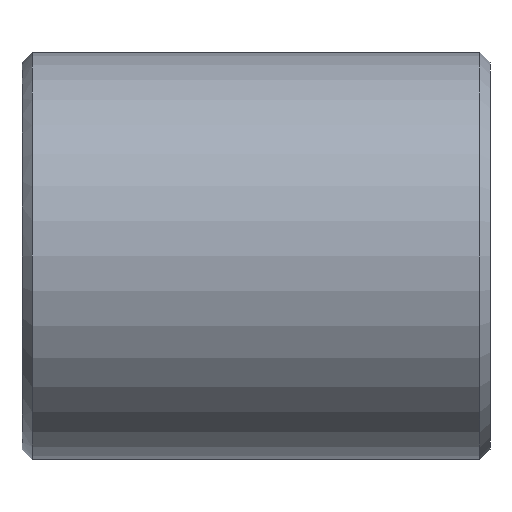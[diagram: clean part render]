
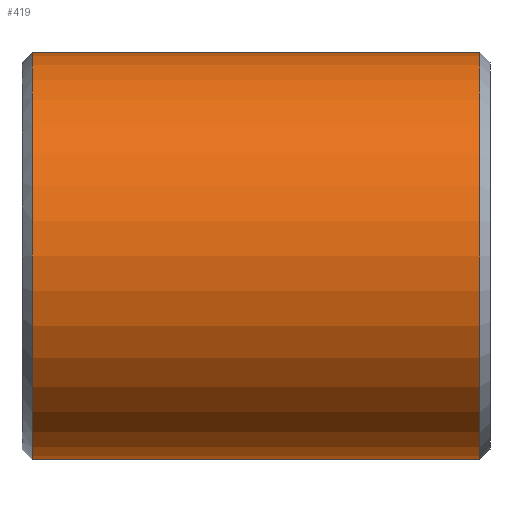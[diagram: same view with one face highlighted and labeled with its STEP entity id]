
A CAD part, front view. The second image highlights one B-rep face of the part: STEP entity #419.
In plain terms, the highlighted cylindrical face has radius 20 mm (diameter 40 mm), a partial arc.
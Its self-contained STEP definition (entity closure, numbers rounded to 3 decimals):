
#231=CARTESIAN_POINT('Vertex',(1.,0.,-20.)) ;
#238=CARTESIAN_POINT('Vertex',(1.,0.,20.)) ;
#267=CARTESIAN_POINT('Axis2P3D Location',(1.,0.,0.)) ;
#271=CARTESIAN_POINT('Vertex',(1.,-20.,0.)) ;
#274=CARTESIAN_POINT('Axis2P3D Location',(1.,0.,0.)) ;
#359=CARTESIAN_POINT('Line Origine',(46.,0.,20.)) ;
#363=CARTESIAN_POINT('Vertex',(45.,0.,20.)) ;
#377=CARTESIAN_POINT('Vertex',(45.,0.,-20.)) ;
#380=CARTESIAN_POINT('Line Origine',(46.,0.,-20.)) ;
#394=CARTESIAN_POINT('Axis2P3D Location',(46.,0.,0.)) ;
#399=CARTESIAN_POINT('Axis2P3D Location',(45.,0.,0.)) ;
#403=CARTESIAN_POINT('Vertex',(45.,-20.,0.)) ;
#406=CARTESIAN_POINT('Axis2P3D Location',(45.,0.,0.)) ;
#268=DIRECTION('Axis2P3D Direction',(1.,0.,-0.)) ;
#275=DIRECTION('Axis2P3D Direction',(1.,0.,-0.)) ;
#360=DIRECTION('Vector Direction',(-1.,0.,0.)) ;
#381=DIRECTION('Vector Direction',(-1.,0.,0.)) ;
#395=DIRECTION('Axis2P3D Direction',(-1.,-0.,-0.)) ;
#396=DIRECTION('Axis2P3D XDirection',(0.,0.,-1.)) ;
#400=DIRECTION('Axis2P3D Direction',(-1.,-0.,-0.)) ;
#407=DIRECTION('Axis2P3D Direction',(-1.,-0.,-0.)) ;
#269=AXIS2_PLACEMENT_3D('Circle Axis2P3D',#267,#268,$) ;
#276=AXIS2_PLACEMENT_3D('Circle Axis2P3D',#274,#275,$) ;
#397=AXIS2_PLACEMENT_3D('Cylinder Axis2P3D',#394,#395,#396) ;
#401=AXIS2_PLACEMENT_3D('Circle Axis2P3D',#399,#400,$) ;
#408=AXIS2_PLACEMENT_3D('Circle Axis2P3D',#406,#407,$) ;
#412=ORIENTED_EDGE('',*,*,#384,.T.) ;
#413=ORIENTED_EDGE('',*,*,#405,.F.) ;
#414=ORIENTED_EDGE('',*,*,#410,.F.) ;
#415=ORIENTED_EDGE('',*,*,#365,.T.) ;
#416=ORIENTED_EDGE('',*,*,#278,.T.) ;
#417=ORIENTED_EDGE('',*,*,#273,.T.) ;
#361=VECTOR('Line Direction',#360,1.) ;
#382=VECTOR('Line Direction',#381,1.) ;
#419=ADVANCED_FACE('352-32X46',(#418),#398,.T.) ;
#270=CIRCLE('generated circle',#269,20.) ;
#277=CIRCLE('generated circle',#276,20.) ;
#402=CIRCLE('generated circle',#401,20.) ;
#409=CIRCLE('generated circle',#408,20.) ;
#398=CYLINDRICAL_SURFACE('generated cylinder',#397,20.) ;
#273=EDGE_CURVE('',#272,#232,#270,.T.) ;
#278=EDGE_CURVE('',#239,#272,#277,.T.) ;
#365=EDGE_CURVE('',#364,#239,#362,.T.) ;
#384=EDGE_CURVE('',#232,#378,#383,.F.) ;
#405=EDGE_CURVE('',#404,#378,#402,.F.) ;
#410=EDGE_CURVE('',#364,#404,#409,.F.) ;
#411=EDGE_LOOP('',(#412,#413,#414,#415,#416,#417)) ;
#418=FACE_OUTER_BOUND('',#411,.T.) ;
#362=LINE('Line',#359,#361) ;
#383=LINE('Line',#380,#382) ;
#232=VERTEX_POINT('',#231) ;
#239=VERTEX_POINT('',#238) ;
#272=VERTEX_POINT('',#271) ;
#364=VERTEX_POINT('',#363) ;
#378=VERTEX_POINT('',#377) ;
#404=VERTEX_POINT('',#403) ;
